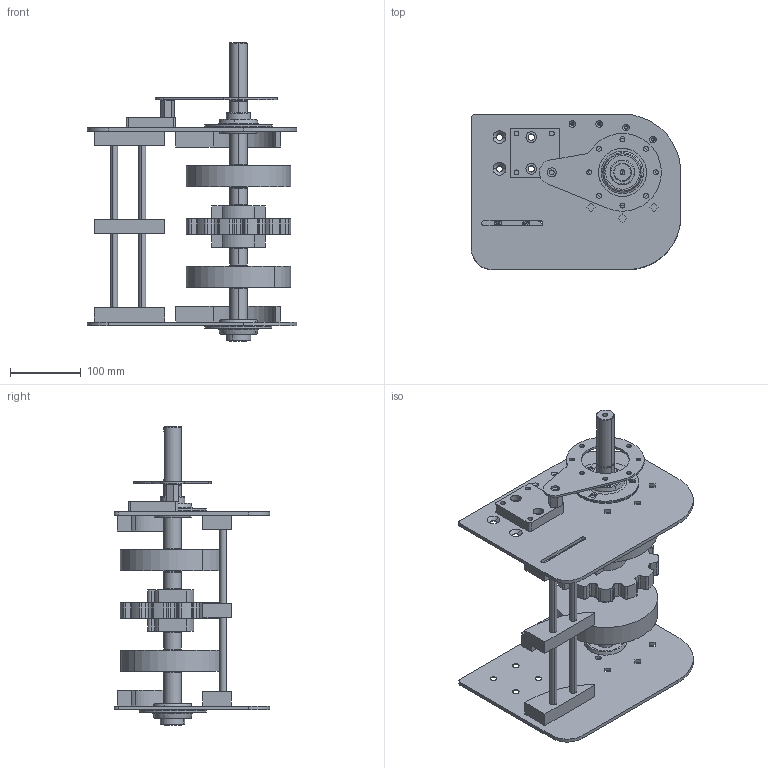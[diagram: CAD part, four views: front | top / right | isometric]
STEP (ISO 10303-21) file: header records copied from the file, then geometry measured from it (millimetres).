
FILE_DESCRIPTION (( 'STEP AP203' ), '1' );
FILE_NAME ('2000.1000.149-1.STEP', '2015-04-02T08:57:05', ( '' ), ( '' ), 'SwSTEP 2.0', 'SolidWorks 2012', '' );
FILE_SCHEMA (( 'CONFIG_CONTROL_DESIGN' ));
Length unit declared in the file: millimetre
Products named in the file (13): 2000.1000.149-1; RUOTE DI TRAINO NS882_NS882T12R25; SBPF 205; 2000.001.017; 2000.001.016; 2000.1000.104; 2000.001.102-1; 084.808.004; 2000.1000.103-1; 084.802.027; 2000.001.015-1; 2000.001.014-1; 2000.001.013
Assembly tree (18 placements, depth 2):
  2000.1000.149-1
    2000.001.013
    2000.001.014-1  x2
    2000.001.015-1  x3
    084.802.027
    2000.1000.103-1
    084.808.004
    2000.001.102-1
    2000.1000.104  x2
    2000.001.016  x2
    2000.001.017
    SBPF 205  x2
    RUOTE DI TRAINO NS882_NS882T12R25
Bounding box: 296.5 x 220 x 422 mm (x, y, z)
Volume: 2792926.5 mm3; surface area: 636401.9 mm2
Topology: 22 solids, 22 shells, 703 faces, 1827 edges, 1175 vertices
Faces by surface type: cylinder 330, plane 243, cone 70, torus 40, sphere 20
Entity records: 19924 total; most frequent: DIRECTION 3387, CARTESIAN_POINT 3323, ORIENTED_EDGE 2994, EDGE_CURVE 1497, AXIS2_PLACEMENT_3D 1321, VERTEX_POINT 969, VECTOR 745, LINE 745
